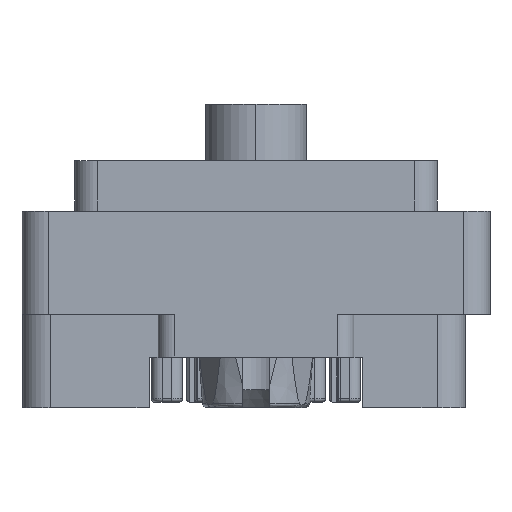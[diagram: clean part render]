
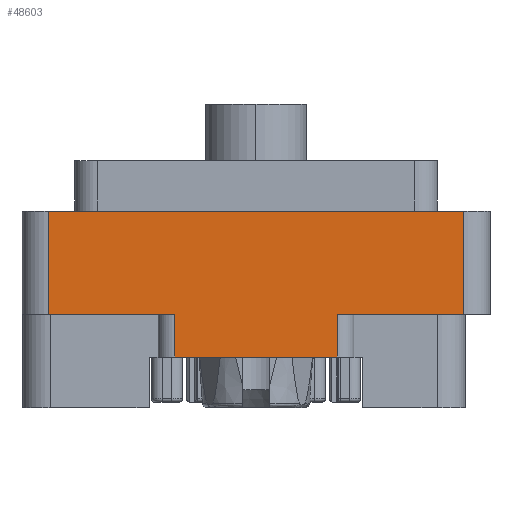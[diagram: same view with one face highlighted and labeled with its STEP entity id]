
A CAD part, left-side view. The second image highlights one B-rep face of the part: STEP entity #48603.
In plain terms, the highlighted planar face has unit normal (-1, 0, 0).
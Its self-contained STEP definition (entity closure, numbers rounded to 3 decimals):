
#50 = VERTEX_POINT ( 'NONE', #49996 ) ;
#1302 = VERTEX_POINT ( 'NONE', #25283 ) ;
#2077 = PLANE ( 'NONE',  #7625 ) ;
#3155 = DIRECTION ( 'NONE',  ( -1., 0., 0. ) ) ;
#5355 = DIRECTION ( 'NONE',  ( 0., 0., -1. ) ) ;
#5839 = ORIENTED_EDGE ( 'NONE', *, *, #67060, .F. ) ;
#7625 = AXIS2_PLACEMENT_3D ( 'NONE', #46693, #3155, #53295 ) ;
#10869 = VECTOR ( 'NONE', #66797, 1000. ) ;
#11231 = CARTESIAN_POINT ( 'NONE',  ( -37.3, -18.49, 1.978 ) ) ;
#11696 = LINE ( 'NONE', #27935, #52272 ) ;
#15074 = EDGE_LOOP ( 'NONE', ( #54105, #56657, #27610, #62286, #27171, #5839, #28249, #23882 ) ) ;
#18214 = LINE ( 'NONE', #69062, #64807 ) ;
#18220 = DIRECTION ( 'NONE',  ( 0., -1., 0. ) ) ;
#19753 = LINE ( 'NONE', #24943, #67578 ) ;
#23728 = EDGE_CURVE ( 'NONE', #53883, #54571, #31848, .T. ) ;
#23882 = ORIENTED_EDGE ( 'NONE', *, *, #37828, .T. ) ;
#24943 = CARTESIAN_POINT ( 'NONE',  ( -37.3, 18.49, -89.33 ) ) ;
#25283 = CARTESIAN_POINT ( 'NONE',  ( -37.3, 18.49, -7.222 ) ) ;
#27171 = ORIENTED_EDGE ( 'NONE', *, *, #39915, .F. ) ;
#27610 = ORIENTED_EDGE ( 'NONE', *, *, #23728, .T. ) ;
#27935 = CARTESIAN_POINT ( 'NONE',  ( -37.3, -18.49, -7.222 ) ) ;
#28249 = ORIENTED_EDGE ( 'NONE', *, *, #70947, .F. ) ;
#28874 = EDGE_CURVE ( 'NONE', #50, #54571, #40317, .T. ) ;
#29350 = CARTESIAN_POINT ( 'NONE',  ( -37.3, -7.225, -7.222 ) ) ;
#31392 = VERTEX_POINT ( 'NONE', #42974 ) ;
#31848 = LINE ( 'NONE', #54313, #62455 ) ;
#32571 = DIRECTION ( 'NONE',  ( 0., 0., 1. ) ) ;
#32875 = LINE ( 'NONE', #55359, #10869 ) ;
#33377 = CARTESIAN_POINT ( 'NONE',  ( -37.3, -7.225, 6.858 ) ) ;
#37828 = EDGE_CURVE ( 'NONE', #31392, #52166, #62837, .T. ) ;
#39915 = EDGE_CURVE ( 'NONE', #1302, #50, #19753, .T. ) ;
#40317 = LINE ( 'NONE', #46220, #70275 ) ;
#40668 = DIRECTION ( 'NONE',  ( 0., 0., 1. ) ) ;
#40978 = CARTESIAN_POINT ( 'NONE',  ( -37.3, -18.49, -7.222 ) ) ;
#42211 = DIRECTION ( 'NONE',  ( 0., 0., 1. ) ) ;
#42227 = EDGE_CURVE ( 'NONE', #66307, #52166, #66203, .T. ) ;
#42974 = CARTESIAN_POINT ( 'NONE',  ( -37.3, 7.225, -11.022 ) ) ;
#46220 = CARTESIAN_POINT ( 'NONE',  ( -37.3, 18.45, 1.978 ) ) ;
#46693 = CARTESIAN_POINT ( 'NONE',  ( -37.3, 18.45, -89.33 ) ) ;
#48424 = EDGE_CURVE ( 'NONE', #53883, #66307, #11696, .T. ) ;
#48603 = ADVANCED_FACE ( 'NONE', ( #58130 ), #2077, .T. ) ;
#49996 = CARTESIAN_POINT ( 'NONE',  ( -37.3, 18.49, 1.978 ) ) ;
#52166 = VERTEX_POINT ( 'NONE', #56564 ) ;
#52272 = VECTOR ( 'NONE', #68100, 1000. ) ;
#53295 = DIRECTION ( 'NONE',  ( 0., 0., 1. ) ) ;
#53883 = VERTEX_POINT ( 'NONE', #40978 ) ;
#54105 = ORIENTED_EDGE ( 'NONE', *, *, #42227, .F. ) ;
#54313 = CARTESIAN_POINT ( 'NONE',  ( -37.3, -18.49, -89.33 ) ) ;
#54571 = VERTEX_POINT ( 'NONE', #11231 ) ;
#55187 = DIRECTION ( 'NONE',  ( 0., -1., 0. ) ) ;
#55359 = CARTESIAN_POINT ( 'NONE',  ( -37.3, 7.225, -7.222 ) ) ;
#56343 = CARTESIAN_POINT ( 'NONE',  ( -37.3, 7.225, -7.222 ) ) ;
#56564 = CARTESIAN_POINT ( 'NONE',  ( -37.3, -7.225, -11.022 ) ) ;
#56657 = ORIENTED_EDGE ( 'NONE', *, *, #48424, .F. ) ;
#57739 = VECTOR ( 'NONE', #5355, 1000. ) ;
#58130 = FACE_OUTER_BOUND ( 'NONE', #15074, .T. ) ;
#62286 = ORIENTED_EDGE ( 'NONE', *, *, #28874, .F. ) ;
#62455 = VECTOR ( 'NONE', #32571, 1000. ) ;
#62475 = CARTESIAN_POINT ( 'NONE',  ( -37.3, -9.525, -11.022 ) ) ;
#62837 = LINE ( 'NONE', #62475, #64950 ) ;
#63634 = VERTEX_POINT ( 'NONE', #56343 ) ;
#64807 = VECTOR ( 'NONE', #40668, 1000. ) ;
#64950 = VECTOR ( 'NONE', #18220, 1000. ) ;
#66203 = LINE ( 'NONE', #33377, #57739 ) ;
#66307 = VERTEX_POINT ( 'NONE', #29350 ) ;
#66797 = DIRECTION ( 'NONE',  ( 0., 1., 0. ) ) ;
#67060 = EDGE_CURVE ( 'NONE', #63634, #1302, #32875, .T. ) ;
#67578 = VECTOR ( 'NONE', #42211, 1000. ) ;
#68100 = DIRECTION ( 'NONE',  ( 0., 1., 0. ) ) ;
#69062 = CARTESIAN_POINT ( 'NONE',  ( -37.3, 7.225, 6.858 ) ) ;
#70275 = VECTOR ( 'NONE', #55187, 1000. ) ;
#70947 = EDGE_CURVE ( 'NONE', #31392, #63634, #18214, .T. ) ;
